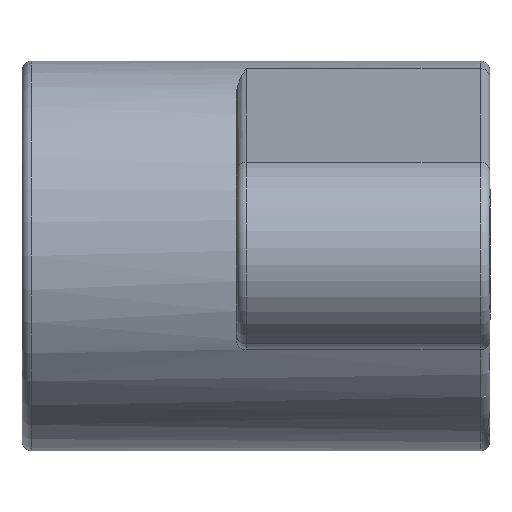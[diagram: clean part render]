
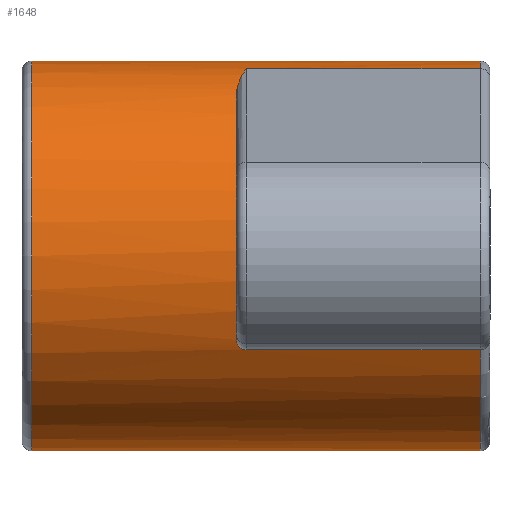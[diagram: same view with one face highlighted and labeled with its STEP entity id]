
A CAD part, left-side view. The second image highlights one B-rep face of the part: STEP entity #1648.
In plain terms, the highlighted cylindrical face has radius 10 mm (diameter 20 mm), a partial arc.
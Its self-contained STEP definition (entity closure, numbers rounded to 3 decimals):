
#15 = EDGE_CURVE ( 'NONE', #38, #1252, #1087, .T. ) ;
#38 = VERTEX_POINT ( 'NONE', #332 ) ;
#50 = DIRECTION ( 'NONE',  ( 0., -1., 0. ) ) ;
#52 = DIRECTION ( 'NONE',  ( 0., 1., 0. ) ) ;
#68 = CARTESIAN_POINT ( 'NONE',  ( -8.771, 0.5, -4.803 ) ) ;
#104 = DIRECTION ( 'NONE',  ( 0., 1., 0. ) ) ;
#146 = ORIENTED_EDGE ( 'NONE', *, *, #1346, .F. ) ;
#151 = ORIENTED_EDGE ( 'NONE', *, *, #1100, .F. ) ;
#157 = VERTEX_POINT ( 'NONE', #1177 ) ;
#163 = CARTESIAN_POINT ( 'NONE',  ( -5.639, 13., 8.259 ) ) ;
#170 = CARTESIAN_POINT ( 'NONE',  ( -4.724, 12.918, 8.818 ) ) ;
#226 = EDGE_LOOP ( 'NONE', ( #146, #919, #824, #1761, #151, #429, #1533, #423, #697, #380 ) ) ;
#278 = LINE ( 'NONE', #391, #974 ) ;
#312 = CARTESIAN_POINT ( 'NONE',  ( -3.772, 12.735, 9.276 ) ) ;
#332 = CARTESIAN_POINT ( 'NONE',  ( 0., 0.5, -10. ) ) ;
#336 = VERTEX_POINT ( 'NONE', #773 ) ;
#370 = LINE ( 'NONE', #1481, #1785 ) ;
#380 = ORIENTED_EDGE ( 'NONE', *, *, #408, .T. ) ;
#391 = CARTESIAN_POINT ( 'NONE',  ( 0., 13., -10. ) ) ;
#396 = CARTESIAN_POINT ( 'NONE',  ( -8.805, 12.774, -4.741 ) ) ;
#408 = EDGE_CURVE ( 'NONE', #1559, #1574, #1715, .T. ) ;
#423 = ORIENTED_EDGE ( 'NONE', *, *, #1665, .T. ) ;
#429 = ORIENTED_EDGE ( 'NONE', *, *, #592, .T. ) ;
#460 = CARTESIAN_POINT ( 'NONE',  ( -2.778, 12.5, 9.606 ) ) ;
#490 = CARTESIAN_POINT ( 'NONE',  ( 0., 0.5, 0. ) ) ;
#491 = VERTEX_POINT ( 'NONE', #1737 ) ;
#499 = DIRECTION ( 'NONE',  ( 0., 1., 0. ) ) ;
#521 = CARTESIAN_POINT ( 'NONE',  ( -2.778, 12.5, 9.606 ) ) ;
#525 = VERTEX_POINT ( 'NONE', #521 ) ;
#531 = AXIS2_PLACEMENT_3D ( 'NONE', #1340, #104, #1615 ) ;
#548 = CARTESIAN_POINT ( 'NONE',  ( -8.967, 13., -4.43 ) ) ;
#592 = EDGE_CURVE ( 'NONE', #336, #1701, #1060, .T. ) ;
#602 = CARTESIAN_POINT ( 'NONE',  ( -5.416, 13., 8.411 ) ) ;
#638 = FACE_OUTER_BOUND ( 'NONE', #226, .T. ) ;
#640 = CARTESIAN_POINT ( 'NONE',  ( 0., 23.5, 0. ) ) ;
#676 = DIRECTION ( 'NONE',  ( 0., -1., 0. ) ) ;
#697 = ORIENTED_EDGE ( 'NONE', *, *, #1207, .T. ) ;
#720 = DIRECTION ( 'NONE',  ( 0., 0., 1. ) ) ;
#737 = LINE ( 'NONE', #1048, #1405 ) ;
#773 = CARTESIAN_POINT ( 'NONE',  ( -8.771, 12.5, -4.803 ) ) ;
#775 = DIRECTION ( 'NONE',  ( 0., 0., 1. ) ) ;
#783 = AXIS2_PLACEMENT_3D ( 'NONE', #991, #997, #867 ) ;
#811 = CARTESIAN_POINT ( 'NONE',  ( -8.771, 12.64, -4.803 ) ) ;
#824 = ORIENTED_EDGE ( 'NONE', *, *, #1402, .T. ) ;
#866 = AXIS2_PLACEMENT_3D ( 'NONE', #490, #499, #720 ) ;
#867 = DIRECTION ( 'NONE',  ( 0., 0., -1. ) ) ;
#892 = CARTESIAN_POINT ( 'NONE',  ( -2.778, 13., 9.606 ) ) ;
#894 = CARTESIAN_POINT ( 'NONE',  ( 0., 13., 0. ) ) ;
#911 = LINE ( 'NONE', #892, #1637 ) ;
#919 = ORIENTED_EDGE ( 'NONE', *, *, #1257, .T. ) ;
#939 = EDGE_CURVE ( 'NONE', #1701, #1417, #1029, .T. ) ;
#943 = AXIS2_PLACEMENT_3D ( 'NONE', #640, #1584, #775 ) ;
#974 = VECTOR ( 'NONE', #1627, 1000. ) ;
#991 = CARTESIAN_POINT ( 'NONE',  ( 0., 13., 0. ) ) ;
#997 = DIRECTION ( 'NONE',  ( 0., -1., 0. ) ) ;
#1002 = CARTESIAN_POINT ( 'NONE',  ( -5.188, 12.98, 8.553 ) ) ;
#1023 = DIRECTION ( 'NONE',  ( 0., 0., 1. ) ) ;
#1029 = CIRCLE ( 'NONE', #1267, 10. ) ;
#1048 = CARTESIAN_POINT ( 'NONE',  ( 0., 13., 10. ) ) ;
#1055 = DIRECTION ( 'NONE',  ( 0., -1., 0. ) ) ;
#1060 = B_SPLINE_CURVE_WITH_KNOTS ( 'NONE', 3,
 ( #1625, #811, #396, #1341, #548, #1495 ),
 .UNSPECIFIED., .F., .F.,
 ( 4, 2, 4 ),
 ( 0., 0., 0.001 ),
 .UNSPECIFIED. ) ;
#1075 = CARTESIAN_POINT ( 'NONE',  ( -5.639, 13., 8.259 ) ) ;
#1087 = CIRCLE ( 'NONE', #866, 10. ) ;
#1100 = EDGE_CURVE ( 'NONE', #336, #1252, #370, .T. ) ;
#1112 = CARTESIAN_POINT ( 'NONE',  ( -2.778, 0.5, 9.606 ) ) ;
#1135 = CARTESIAN_POINT ( 'NONE',  ( -4.488, 12.876, 8.94 ) ) ;
#1177 = CARTESIAN_POINT ( 'NONE',  ( 0., 23.5, -10. ) ) ;
#1207 = EDGE_CURVE ( 'NONE', #525, #1559, #911, .T. ) ;
#1247 = CARTESIAN_POINT ( 'NONE',  ( 0., 0.5, 10. ) ) ;
#1252 = VERTEX_POINT ( 'NONE', #68 ) ;
#1257 = EDGE_CURVE ( 'NONE', #491, #157, #1545, .T. ) ;
#1267 = AXIS2_PLACEMENT_3D ( 'NONE', #894, #52, #1023 ) ;
#1271 = CARTESIAN_POINT ( 'NONE',  ( -3.282, 12.617, 9.461 ) ) ;
#1340 = CARTESIAN_POINT ( 'NONE',  ( 0., 0.5, 0. ) ) ;
#1341 = CARTESIAN_POINT ( 'NONE',  ( -8.904, 12.952, -4.553 ) ) ;
#1346 = EDGE_CURVE ( 'NONE', #491, #1574, #737, .T. ) ;
#1400 = CARTESIAN_POINT ( 'NONE',  ( -9.027, 13., -4.303 ) ) ;
#1402 = EDGE_CURVE ( 'NONE', #157, #38, #278, .T. ) ;
#1405 = VECTOR ( 'NONE', #1055, 1000. ) ;
#1417 = VERTEX_POINT ( 'NONE', #1075 ) ;
#1481 = CARTESIAN_POINT ( 'NONE',  ( -8.771, 24., -4.803 ) ) ;
#1495 = CARTESIAN_POINT ( 'NONE',  ( -9.027, 13., -4.303 ) ) ;
#1518 = B_SPLINE_CURVE_WITH_KNOTS ( 'NONE', 3,
 ( #163, #602, #1002, #170, #1135, #312, #1271, #460 ),
 .UNSPECIFIED., .F., .F.,
 ( 4, 2, 2, 4 ),
 ( 0., 0.001, 0.002, 0.003 ),
 .UNSPECIFIED. ) ;
#1533 = ORIENTED_EDGE ( 'NONE', *, *, #939, .T. ) ;
#1545 = CIRCLE ( 'NONE', #943, 10. ) ;
#1559 = VERTEX_POINT ( 'NONE', #1112 ) ;
#1574 = VERTEX_POINT ( 'NONE', #1247 ) ;
#1584 = DIRECTION ( 'NONE',  ( 0., -1., 0. ) ) ;
#1615 = DIRECTION ( 'NONE',  ( 0., 0., 1. ) ) ;
#1625 = CARTESIAN_POINT ( 'NONE',  ( -8.771, 12.5, -4.803 ) ) ;
#1627 = DIRECTION ( 'NONE',  ( 0., -1., 0. ) ) ;
#1637 = VECTOR ( 'NONE', #50, 1000. ) ;
#1648 = ADVANCED_FACE ( 'NONE', ( #638 ), #1671, .T. ) ;
#1665 = EDGE_CURVE ( 'NONE', #1417, #525, #1518, .T. ) ;
#1671 = CYLINDRICAL_SURFACE ( 'NONE', #783, 10. ) ;
#1701 = VERTEX_POINT ( 'NONE', #1400 ) ;
#1715 = CIRCLE ( 'NONE', #531, 10. ) ;
#1737 = CARTESIAN_POINT ( 'NONE',  ( 0., 23.5, 10. ) ) ;
#1761 = ORIENTED_EDGE ( 'NONE', *, *, #15, .T. ) ;
#1785 = VECTOR ( 'NONE', #676, 1000. ) ;
